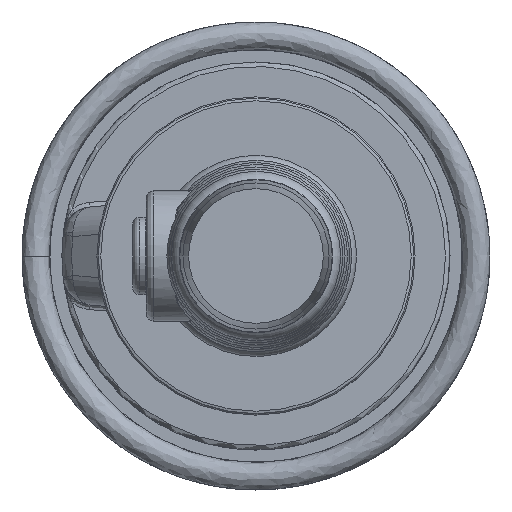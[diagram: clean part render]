
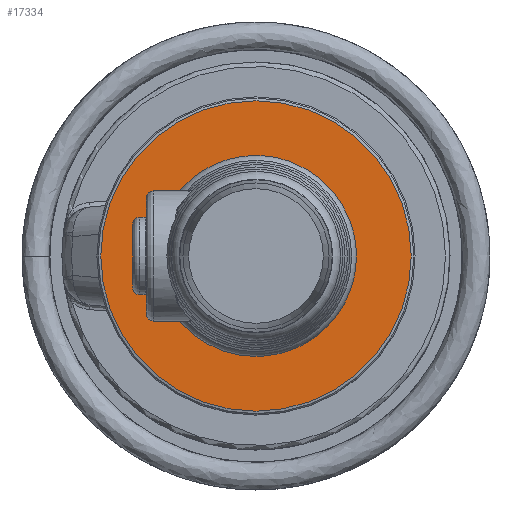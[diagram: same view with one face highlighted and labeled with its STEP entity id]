
A CAD part, left-side view. The second image highlights one B-rep face of the part: STEP entity #17334.
In plain terms, the highlighted planar face has unit normal (-1, 0, 0).
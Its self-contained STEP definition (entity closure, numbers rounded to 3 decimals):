
#226=FACE_BOUND('',#4179,.T.);
#935=B_SPLINE_CURVE_WITH_KNOTS('',3,(#39507,#39508,#39509,#39510,#39511,
#39512,#39513,#39514,#39515,#39516,#39517,#39518,#39519,#39520,#39521,#39522,
#39523,#39524,#39525,#39526,#39527,#39528,#39529,#39530,#39531,#39532),
 .UNSPECIFIED.,.F.,.F.,(4,2,2,2,2,2,2,2,2,2,2,2,4),(-9.637,-9.63,
-9.622,-9.603,-9.551,-9.384,
-8.87,-7.81,-6.371,-4.874,
-3.299,-1.673,0.),.UNSPECIFIED.);
#1812=CIRCLE('',#18489,68.);
#1813=CIRCLE('',#18490,40.75);
#2311=PLANE('',#18488);
#3155=FACE_OUTER_BOUND('',#4178,.T.);
#4178=EDGE_LOOP('',(#14924));
#4179=EDGE_LOOP('',(#14925,#14926,#14927));
#5276=LINE('',#39505,#6283);
#6283=VECTOR('',#21759,10.);
#7868=VERTEX_POINT('',#39501);
#7869=VERTEX_POINT('',#39503);
#7870=VERTEX_POINT('',#39504);
#7871=VERTEX_POINT('',#39506);
#10234=EDGE_CURVE('',#7868,#7868,#1812,.T.);
#10235=EDGE_CURVE('',#7869,#7870,#5276,.T.);
#10236=EDGE_CURVE('',#7871,#7869,#935,.T.);
#10237=EDGE_CURVE('',#7871,#7870,#1813,.T.);
#14924=ORIENTED_EDGE('',*,*,#10234,.F.);
#14925=ORIENTED_EDGE('',*,*,#10235,.F.);
#14926=ORIENTED_EDGE('',*,*,#10236,.F.);
#14927=ORIENTED_EDGE('',*,*,#10237,.T.);
#17334=ADVANCED_FACE('',(#3155,#226),#2311,.T.);
#18488=AXIS2_PLACEMENT_3D('',#39500,#21755,#21756);
#18489=AXIS2_PLACEMENT_3D('',#39502,#21757,#21758);
#18490=AXIS2_PLACEMENT_3D('',#39533,#21760,#21761);
#21755=DIRECTION('center_axis',(-1.,0.,0.));
#21756=DIRECTION('ref_axis',(0.,-1.,0.));
#21757=DIRECTION('center_axis',(1.,0.,0.));
#21758=DIRECTION('ref_axis',(0.,0.,
-1.));
#21759=DIRECTION('',(0.,0.951,-0.309));
#21760=DIRECTION('center_axis',(1.,0.,0.));
#21761=DIRECTION('ref_axis',(0.,0.,
-1.));
#39500=CARTESIAN_POINT('Origin',(-128.,0.,-55.5));
#39501=CARTESIAN_POINT('',(-128.,-68.,0.));
#39502=CARTESIAN_POINT('Origin',(-128.,0.,0.));
#39503=CARTESIAN_POINT('',(-128.,-40.342,13.108));
#39504=CARTESIAN_POINT('',(-128.,-38.756,12.592));
#39505=CARTESIAN_POINT('',(-128.,-11.266,3.661));
#39506=CARTESIAN_POINT('',(-128.,6.525,-40.224));
#39507=CARTESIAN_POINT('Ctrl Pts',(-128.,6.525,-40.224));
#39508=CARTESIAN_POINT('Ctrl Pts',(-128.,6.526,-40.229));
#39509=CARTESIAN_POINT('Ctrl Pts',(-128.,6.526,-40.234));
#39510=CARTESIAN_POINT('Ctrl Pts',(-128.,6.524,-40.245));
#39511=CARTESIAN_POINT('Ctrl Pts',(-128.,6.523,-40.25));
#39512=CARTESIAN_POINT('Ctrl Pts',(-128.,6.515,-40.268));
#39513=CARTESIAN_POINT('Ctrl Pts',(-128.,6.507,-40.279));
#39514=CARTESIAN_POINT('Ctrl Pts',(-128.,6.472,-40.317));
#39515=CARTESIAN_POINT('Ctrl Pts',(-128.,6.433,-40.344));
#39516=CARTESIAN_POINT('Ctrl Pts',(-128.,6.276,-40.437));
#39517=CARTESIAN_POINT('Ctrl Pts',(-128.,6.099,-40.505));
#39518=CARTESIAN_POINT('Ctrl Pts',(-128.,5.564,-40.695));
#39519=CARTESIAN_POINT('Ctrl Pts',(-128.,4.963,-40.856));
#39520=CARTESIAN_POINT('Ctrl Pts',(-128.,2.674,-41.317));
#39521=CARTESIAN_POINT('Ctrl Pts',(-128.,0.244,-41.635));
#39522=CARTESIAN_POINT('Ctrl Pts',(-128.,-6.94,-41.468));
#39523=CARTESIAN_POINT('Ctrl Pts',(-128.,-11.399,-40.675));
#39524=CARTESIAN_POINT('Ctrl Pts',(-128.,-20.537,
-37.191));
#39525=CARTESIAN_POINT('Ctrl Pts',(-128.,-24.833,
-34.57));
#39526=CARTESIAN_POINT('Ctrl Pts',(-128.,-32.474,
-27.759));
#39527=CARTESIAN_POINT('Ctrl Pts',(-128.,-35.695,
-23.552));
#39528=CARTESIAN_POINT('Ctrl Pts',(-128.,-40.483,
-14.015));
#39529=CARTESIAN_POINT('Ctrl Pts',(-128.,-41.949,
-8.738));
#39530=CARTESIAN_POINT('Ctrl Pts',(-128.,-42.796,
2.228));
#39531=CARTESIAN_POINT('Ctrl Pts',(-128.,-42.109,7.82));
#39532=CARTESIAN_POINT('Ctrl Pts',(-128.,-40.342,13.108));
#39533=CARTESIAN_POINT('Origin',(-128.,0.,
0.));
